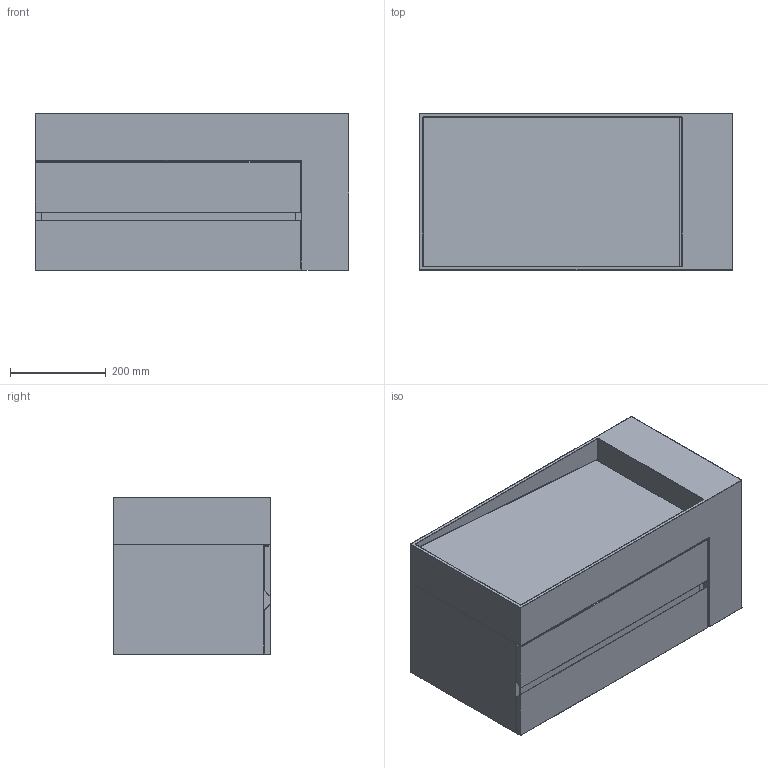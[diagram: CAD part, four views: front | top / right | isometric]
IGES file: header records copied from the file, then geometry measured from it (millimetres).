
Global section: file name: \\Archi-NAS\Comune\X GIOVANNI\SCHEDE PRODOTTO\LAVABI\SOSPESI\CUBIC XS\3D\MOMA DESIGN_LAVABI SOSPESI_CUBIC XS 3.igs; native system: Rhinoceros ( Jan 17 2018 ); preprocessor: Trout Lake IGES 012 Jan 17 2018; date: 230629.103029; units: millimetre
Bounding box: 654.6 x 327.3 x 327.3 mm (x, y, z)
Surface area: 2331910.7 mm2 (no closed solid volume)
Topology: 0 solids, 0 shells, 241 faces, 1228 edges, 1220 vertices
Faces by surface type: bspline 241
